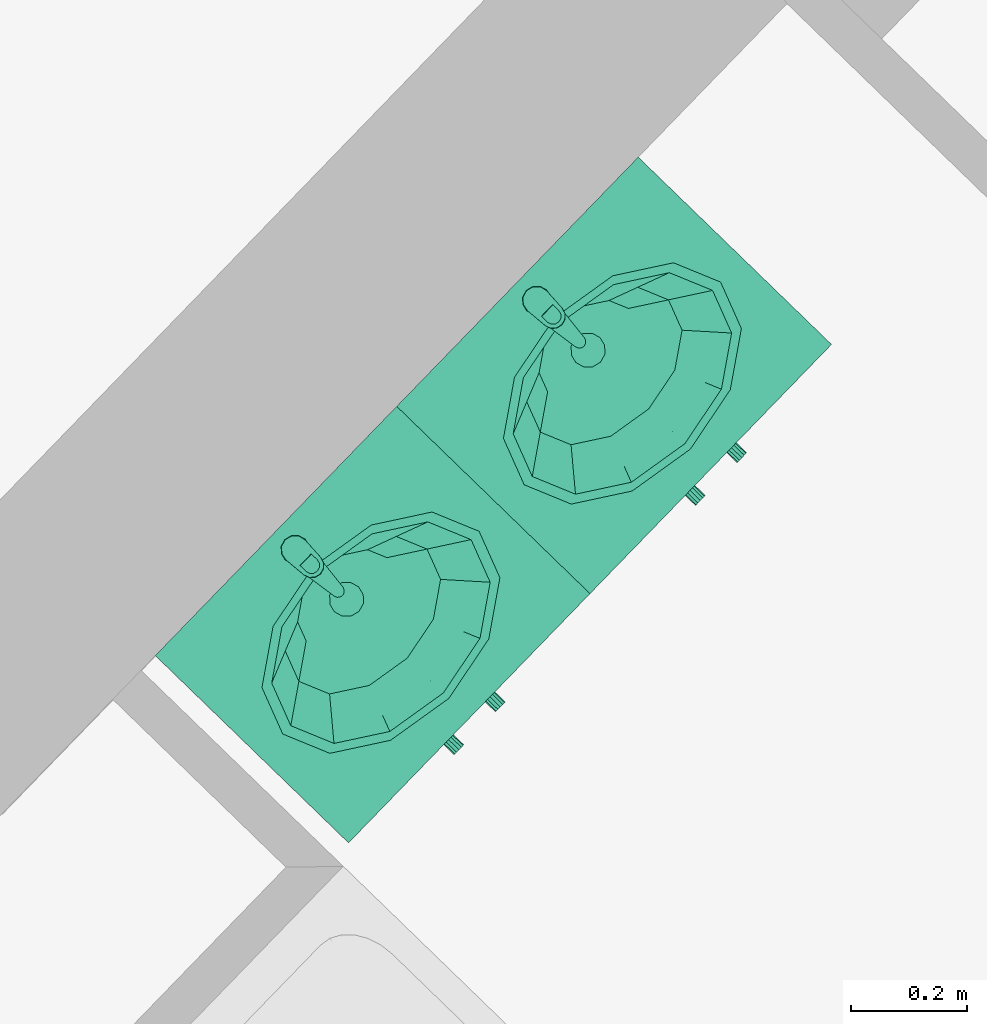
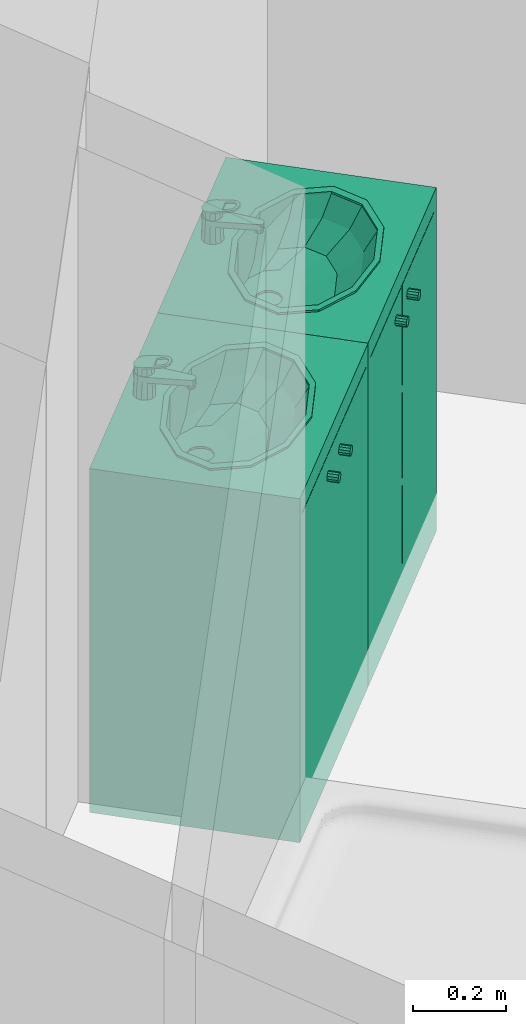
# One storey, part 134 of 195: 2 distribution elements.
"""IFC2X3 building model written with IfcOpenShell, lengths in metres."""

from ifc_helpers import new_model, entity, si_unit, converted_unit, derived_unit, money_unit, direction, frame, origin_with_axes, place, context, subcontext, project, spatial, open_shell, faceted_brep, surface_model, source, transform, mapped, type_object, element, save


model = new_model("IFC2X3")

# Units and contexts
model_context = context("Model", 3, precision=1e-05, world=origin_with_axes(), true_north=direction((0.0, 1.0)))
body_context = subcontext(model_context, "Body", "Model", "MODEL_VIEW")
ifc_project = project(units=[si_unit("LENGTHUNIT", "METRE"), si_unit("AREAUNIT", "SQUARE_METRE"), si_unit("VOLUMEUNIT", "CUBIC_METRE"), converted_unit("PLANEANGLEUNIT", "DEGREE", entity("IfcPlaneAngleMeasure", 0.0174532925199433), si_unit("PLANEANGLEUNIT", "RADIAN"), dimensions=[0, 0, 0, 0, 0, 0, 0]), money_unit("CHF"), converted_unit("TIMEUNIT", "Year", entity("IfcTimeMeasure", 31557600.0), si_unit("TIMEUNIT", "SECOND"), dimensions=[0, 0, 1, 0, 0, 0, 0]), si_unit("MASSUNIT", "GRAM", prefix="KILO"), si_unit("THERMODYNAMICTEMPERATUREUNIT", "DEGREE_CELSIUS"), si_unit("LUMINOUSINTENSITYUNIT", "LUMEN"), si_unit("ENERGYUNIT", "JOULE", prefix="MEGA"), derived_unit("THERMALCONDUCTANCEUNIT", [(si_unit("POWERUNIT", "WATT"), 1), (si_unit("LENGTHUNIT", "METRE"), -1), (si_unit("THERMODYNAMICTEMPERATUREUNIT", "KELVIN"), -1)]), derived_unit("SPECIFICHEATCAPACITYUNIT", [(si_unit("ENERGYUNIT", "JOULE"), 1), (si_unit("MASSUNIT", "GRAM", prefix="KILO"), -1), (si_unit("THERMODYNAMICTEMPERATUREUNIT", "KELVIN"), -1)]), derived_unit("MASSDENSITYUNIT", [(si_unit("MASSUNIT", "GRAM", prefix="KILO"), 1), (si_unit("VOLUMEUNIT", "CUBIC_METRE"), -1)])], contexts=[model_context])

# Site, building, storey
site_placement = place(None, origin_with_axes())
site = spatial("IfcSite", under=ifc_project, at=site_placement, Name="Site", CompositionType="ELEMENT")
building_placement = place(site_placement, origin_with_axes())
building = spatial("IfcBuilding", under=site, at=building_placement, Name="Bâtiment", CompositionType="ELEMENT")
storey_placement = place(building_placement, origin_with_axes())
storey = spatial("IfcBuildingStorey", under=building, at=storey_placement, Name="rdc", CompositionType="ELEMENT", Elevation=0.0)

# Distribution elements
distribution_element_type = type_object("IfcDistributionElementType", Name="Lavabo sur meuble 27")
shared_shape = source(origin_with_axes(), body_context, "Body", "SurfaceModel", [
    faceted_brep([(0.0, 0.0, 0.0), (0.0, 0.0, 0.1), (-0.6, 0.0, 0.1), (-0.6, 0.0, 0.0), (0.0, 0.4653441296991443, 0.0), (0.0, 0.4653441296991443, 0.1), (-0.6, 0.4653441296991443, 0.1), (-0.6, 0.4653441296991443, 0.0)], [[[0, 1, 2, 3]], [[4, 5, 1, 0]], [[1, 5, 6, 2]], [[3, 2, 6, 7]], [[0, 3, 7, 4]], [[7, 6, 5, 4]]]),
    faceted_brep([(0.0, 0.0, 0.1), (0.0, 0.0, 0.12), (-0.02, 0.0, 0.12), (-0.02, 0.0, 0.1), (0.0, 0.4653441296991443, 0.1), (0.0, 0.4653441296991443, 0.12), (-0.02, 0.4653441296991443, 0.12), (-0.58, 0.4653441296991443, 0.12), (-0.6, 0.4653441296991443, 0.12), (-0.6, 0.0, 0.12), (-0.58, 0.0, 0.12), (-0.58, 0.0, 0.1), (-0.6, 0.0, 0.1), (-0.6, 0.4653441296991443, 0.1), (-0.58, 0.4653441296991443, 0.1), (-0.02, 0.4653441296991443, 0.1)], [[[0, 1, 2, 3]], [[4, 5, 1, 0]], [[1, 5, 6, 7, 8, 9, 10, 2]], [[3, 2, 10, 11]], [[0, 3, 11, 12, 13, 14, 15, 4]], [[15, 6, 5, 4]], [[14, 7, 6, 15]], [[13, 8, 7, 14]], [[12, 9, 8, 13]], [[11, 10, 9, 12]]]),
    faceted_brep([(0.0, 0.0, 0.12), (0.0, 0.0, 0.85), (-0.02, 0.0, 0.85), (-0.02, 0.0, 0.12), (0.0, 0.4653441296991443, 0.12), (0.0, 0.4653441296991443, 0.85), (-0.6, 0.4653441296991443, 0.85), (-0.6, 0.0, 0.85), (-0.58, 0.0, 0.85), (-0.58, 0.4453441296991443, 0.85), (-0.02, 0.4453441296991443, 0.85), (-0.02, 0.4453441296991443, 0.12), (-0.58, 0.4453441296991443, 0.12), (-0.58, 0.0, 0.12), (-0.6, 0.0, 0.12), (-0.6, 0.4653441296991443, 0.12)], [[[0, 1, 2, 3]], [[4, 5, 1, 0]], [[1, 5, 6, 7, 8, 9, 10, 2]], [[3, 2, 10, 11]], [[0, 3, 11, 12, 13, 14, 15, 4]], [[15, 6, 5, 4]], [[14, 7, 6, 15]], [[13, 8, 7, 14]], [[12, 9, 8, 13]], [[11, 10, 9, 12]]]),
    faceted_brep([(-0.58, 0.0, 0.3233333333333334), (-0.58, 0.0, 0.3433333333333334), (-0.58, 0.4453441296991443, 0.3433333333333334), (-0.58, 0.4453441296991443, 0.3233333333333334), (-0.02, 0.0, 0.3233333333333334), (-0.02, 0.0, 0.3433333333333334), (-0.02, 0.4453441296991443, 0.3433333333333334), (-0.02, 0.4453441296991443, 0.3233333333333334)], [[[0, 1, 2, 3]], [[4, 5, 1, 0]], [[1, 5, 6, 2]], [[3, 2, 6, 7]], [[0, 3, 7, 4]], [[7, 6, 5, 4]]]),
    faceted_brep([(-0.58, 0.0, 0.5666666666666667), (-0.58, 0.0, 0.5866666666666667), (-0.58, 0.4453441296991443, 0.5866666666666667), (-0.58, 0.4453441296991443, 0.5666666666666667), (-0.02, 0.0, 0.5666666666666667), (-0.02, 0.0, 0.5866666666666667), (-0.02, 0.4453441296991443, 0.5866666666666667), (-0.02, 0.4453441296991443, 0.5666666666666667)], [[[0, 1, 2, 3]], [[4, 5, 1, 0]], [[1, 5, 6, 2]], [[3, 2, 6, 7]], [[0, 3, 7, 4]], [[7, 6, 5, 4]]]),
    faceted_brep([(0.0, 0.4653441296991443, 0.85), (0.0, 0.0, 0.85), (-0.6, 0.0, 0.85), (-0.6, 0.4653441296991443, 0.85), (-0.4124999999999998, 0.08276825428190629, 0.85), (-0.3, 0.06267206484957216, 0.85), (-0.1874999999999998, 0.08276825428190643, 0.85), (-0.1051442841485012, 0.1376720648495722, 0.85), (-0.07499999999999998, 0.2126720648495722, 0.85), (-0.1051442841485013, 0.2876720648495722, 0.85), (-0.1875000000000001, 0.342575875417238, 0.85), (-0.3, 0.3626720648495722, 0.85), (-0.4125, 0.3425758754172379, 0.85), (-0.4948557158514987, 0.2876720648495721, 0.85), (-0.525, 0.2126720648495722, 0.85), (-0.4948557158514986, 0.137672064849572, 0.85), (0.0, 0.4653441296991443, 0.9), (0.0, 0.0, 0.9), (-0.6, 0.0, 0.9), (-0.6, 0.4653441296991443, 0.9), (-0.3, 0.06267206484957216, 0.9), (-0.4124999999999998, 0.08276825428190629, 0.9), (-0.1874999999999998, 0.08276825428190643, 0.9), (-0.1051442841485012, 0.1376720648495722, 0.9), (-0.07499999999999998, 0.2126720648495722, 0.9), (-0.1051442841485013, 0.2876720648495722, 0.9), (-0.1875000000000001, 0.342575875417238, 0.9), (-0.3, 0.3626720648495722, 0.9), (-0.4125, 0.3425758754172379, 0.9), (-0.4948557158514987, 0.2876720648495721, 0.9), (-0.525, 0.2126720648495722, 0.9), (-0.4948557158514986, 0.137672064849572, 0.9)], [[[0, 1, 2, 3], [4, 5, 6, 7, 8, 9, 10, 11, 12, 13, 14, 15]], [[1, 0, 16, 17]], [[2, 1, 17, 18]], [[3, 2, 18, 19]], [[0, 3, 19, 16]], [[20, 5, 4, 21]], [[22, 6, 5, 20]], [[23, 7, 6, 22]], [[24, 8, 7, 23]], [[25, 9, 8, 24]], [[26, 10, 9, 25]], [[27, 11, 10, 26]], [[28, 12, 11, 27]], [[29, 13, 12, 28]], [[30, 14, 13, 29]], [[31, 15, 14, 30]], [[21, 4, 15, 31]], [[18, 17, 16, 19], [28, 27, 26, 25, 24, 23, 22, 20, 21, 31, 30, 29]]]),
    faceted_brep([(-0.544, 0.2126720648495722, 0.905), (-0.511310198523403, 0.2943684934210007, 0.905), (-0.511310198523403, 0.2943684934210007, 0.9), (-0.544, 0.2126720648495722, 0.9), (-0.5113101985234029, 0.1309756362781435, 0.905), (-0.4219999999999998, 0.07116969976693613, 0.905), (-0.3, 0.04927920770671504, 0.905), (-0.1779999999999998, 0.07116969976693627, 0.905), (-0.08868980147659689, 0.1309756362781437, 0.905), (-0.05599999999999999, 0.2126720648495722, 0.905), (-0.088689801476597, 0.2943684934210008, 0.905), (-0.178, 0.3541744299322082, 0.905), (-0.3, 0.3760649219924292, 0.905), (-0.422, 0.3541744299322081, 0.905), (-0.524, 0.2126720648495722, 0.905), (-0.4939896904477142, 0.2876720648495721, 0.905), (-0.412, 0.3425758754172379, 0.905), (-0.3, 0.3626720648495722, 0.905), (-0.1880000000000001, 0.342575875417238, 0.905), (-0.1060103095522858, 0.2876720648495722, 0.905), (-0.07599999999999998, 0.2126720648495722, 0.905), (-0.1060103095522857, 0.1376720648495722, 0.905), (-0.1879999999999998, 0.08276825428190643, 0.905), (-0.3, 0.06267206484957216, 0.905), (-0.4119999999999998, 0.08276825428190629, 0.905), (-0.4939896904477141, 0.137672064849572, 0.905), (-0.422, 0.3541744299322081, 0.9), (-0.3, 0.3760649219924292, 0.9), (-0.178, 0.3541744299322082, 0.9), (-0.088689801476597, 0.2943684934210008, 0.9), (-0.05599999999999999, 0.2126720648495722, 0.9), (-0.08868980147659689, 0.1309756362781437, 0.9), (-0.1779999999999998, 0.07116969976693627, 0.9), (-0.3, 0.04927920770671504, 0.9), (-0.4219999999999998, 0.07116969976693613, 0.9), (-0.5113101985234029, 0.1309756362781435, 0.9), (-0.524, 0.2126720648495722, 0.9), (-0.4939896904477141, 0.137672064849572, 0.9), (-0.4119999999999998, 0.08276825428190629, 0.9), (-0.3, 0.06267206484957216, 0.9), (-0.1879999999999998, 0.08276825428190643, 0.9), (-0.1060103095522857, 0.1376720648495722, 0.9), (-0.07599999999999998, 0.2126720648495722, 0.9), (-0.1060103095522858, 0.2876720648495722, 0.9), (-0.1880000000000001, 0.342575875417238, 0.9), (-0.3, 0.3626720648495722, 0.9), (-0.412, 0.3425758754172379, 0.9), (-0.4939896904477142, 0.2876720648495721, 0.9)], [[[0, 1, 2, 3]], [[0, 4, 5, 6, 7, 8, 9, 10, 11, 12, 13, 1], [14, 15, 16, 17, 18, 19, 20, 21, 22, 23, 24, 25]], [[1, 13, 26, 2]], [[3, 2, 26, 27, 28, 29, 30, 31, 32, 33, 34, 35], [36, 37, 38, 39, 40, 41, 42, 43, 44, 45, 46, 47]], [[4, 0, 3, 35]], [[5, 4, 35, 34]], [[6, 5, 34, 33]], [[7, 6, 33, 32]], [[8, 7, 32, 31]], [[9, 8, 31, 30]], [[10, 9, 30, 29]], [[11, 10, 29, 28]], [[12, 11, 28, 27]], [[13, 12, 27, 26]], [[15, 14, 36, 47]], [[16, 15, 47, 46]], [[17, 16, 46, 45]], [[18, 17, 45, 44]], [[19, 18, 44, 43]], [[20, 19, 43, 42]], [[21, 20, 42, 41]], [[22, 21, 41, 40]], [[23, 22, 40, 39]], [[24, 23, 39, 38]], [[25, 24, 38, 37]], [[14, 25, 37, 36]]]),
    surface_model("IfcShellBasedSurfaceModel", [(-0.3, 0.3626720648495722, 0.9), (-0.412, 0.342575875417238, 0.9), (-0.4008, 0.3445854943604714, 0.848), (-0.3, 0.3626720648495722, 0.848), (-0.4939896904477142, 0.2876720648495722, 0.9), (-0.4745907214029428, 0.2951720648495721, 0.848), (-0.1879999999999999, 0.3425758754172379, 0.9), (-0.1991999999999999, 0.3445854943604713, 0.848), (-0.524, 0.2126720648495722, 0.9), (-0.5016, 0.2276720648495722, 0.848), (-0.1060103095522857, 0.2876720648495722, 0.9), (-0.1254092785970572, 0.2951720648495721, 0.848), (-0.4939896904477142, 0.1376720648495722, 0.9), (-0.4745907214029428, 0.1601720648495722, 0.848), (-0.07599999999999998, 0.2126720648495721, 0.9), (-0.09839999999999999, 0.2276720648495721, 0.848), (-0.412, 0.08276825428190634, 0.9), (-0.4008, 0.1107586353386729, 0.848), (-0.1060103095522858, 0.1376720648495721, 0.9), (-0.1254092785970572, 0.1601720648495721, 0.848), (-0.3, 0.06267206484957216, 0.9), (-0.3, 0.09267206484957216, 0.848), (-0.1879999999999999, 0.08276825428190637, 0.9), (-0.1992, 0.110758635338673, 0.848)], [open_shell([[[0, 1, 2, 3]], [[1, 4, 5, 2]], [[6, 0, 3, 7]], [[4, 8, 9, 5]], [[10, 6, 7, 11]], [[8, 12, 13, 9]], [[14, 10, 11, 15]], [[12, 16, 17, 13]], [[18, 14, 15, 19]], [[16, 20, 21, 17]], [[22, 18, 19, 23]], [[20, 22, 23, 21]]])]),
    surface_model("IfcShellBasedSurfaceModel", [(-0.3, 0.3626720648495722, 0.848), (-0.4008, 0.3445854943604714, 0.848), (-0.379632, 0.3483836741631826, 0.7959999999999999), (-0.3, 0.3626720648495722, 0.7959999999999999), (-0.4745907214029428, 0.2951720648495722, 0.848), (-0.4379266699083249, 0.3093470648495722, 0.7959999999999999), (-0.1991999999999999, 0.3445854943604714, 0.848), (-0.2203679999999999, 0.3483836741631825, 0.7959999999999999), (-0.5016, 0.2276720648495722, 0.848), (-0.459264, 0.2560220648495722, 0.7959999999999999), (-0.1254092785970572, 0.2951720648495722, 0.848), (-0.1620733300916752, 0.3093470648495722, 0.7959999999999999), (-0.4745907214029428, 0.1601720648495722, 0.848), (-0.4379266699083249, 0.2026970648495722, 0.7959999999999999), (-0.09839999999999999, 0.2276720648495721, 0.848), (-0.140736, 0.2560220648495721, 0.7959999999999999), (-0.4008, 0.1107586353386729, 0.848), (-0.379632, 0.1636604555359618, 0.7959999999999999), (-0.1254092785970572, 0.1601720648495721, 0.848), (-0.1620733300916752, 0.2026970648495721, 0.7959999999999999), (-0.3, 0.09267206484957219, 0.848), (-0.3, 0.1493720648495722, 0.7959999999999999), (-0.1992, 0.110758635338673, 0.848), (-0.220368, 0.1636604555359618, 0.7959999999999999)], [open_shell([[[0, 1, 2, 3]], [[1, 4, 5, 2]], [[6, 0, 3, 7]], [[4, 8, 9, 5]], [[10, 6, 7, 11]], [[8, 12, 13, 9]], [[14, 10, 11, 15]], [[12, 16, 17, 13]], [[18, 14, 15, 19]], [[16, 20, 21, 17]], [[22, 18, 19, 23]], [[20, 22, 23, 21]]])]),
    surface_model("IfcShellBasedSurfaceModel", [(-0.3, 0.3626720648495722, 0.7959999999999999), (-0.379632, 0.3483836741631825, 0.7959999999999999), (-0.35016816, 0.3536703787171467, 0.7699999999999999), (-0.3, 0.3626720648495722, 0.7699999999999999), (-0.4379266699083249, 0.3093470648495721, 0.7959999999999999), (-0.3868938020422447, 0.3290773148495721, 0.7699999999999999), (-0.2203679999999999, 0.3483836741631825, 0.7959999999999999), (-0.2498318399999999, 0.3536703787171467, 0.7699999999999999), (-0.459264, 0.2560220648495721, 0.7959999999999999), (-0.40033632, 0.2954825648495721, 0.7699999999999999), (-0.1620733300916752, 0.3093470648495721, 0.7959999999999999), (-0.2131061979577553, 0.3290773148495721, 0.7699999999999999), (-0.4379266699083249, 0.2026970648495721, 0.7959999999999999), (-0.3868938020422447, 0.2618878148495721, 0.7699999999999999), (-0.140736, 0.2560220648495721, 0.7959999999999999), (-0.19966368, 0.2954825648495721, 0.7699999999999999), (-0.379632, 0.1636604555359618, 0.7959999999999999), (-0.35016816, 0.2372947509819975, 0.7699999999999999), (-0.1620733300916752, 0.2026970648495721, 0.7959999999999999), (-0.2131061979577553, 0.2618878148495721, 0.7699999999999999), (-0.3, 0.1493720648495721, 0.7959999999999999), (-0.3, 0.2282930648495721, 0.7699999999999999), (-0.220368, 0.1636604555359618, 0.7959999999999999), (-0.24983184, 0.2372947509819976, 0.7699999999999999)], [open_shell([[[0, 1, 2, 3]], [[1, 4, 5, 2]], [[6, 0, 3, 7]], [[4, 8, 9, 5]], [[10, 6, 7, 11]], [[8, 12, 13, 9]], [[14, 10, 11, 15]], [[12, 16, 17, 13]], [[18, 14, 15, 19]], [[16, 20, 21, 17]], [[22, 18, 19, 23]], [[20, 22, 23, 21]]])]),
    surface_model("IfcShellBasedSurfaceModel", [(-0.3, 0.3626720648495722, 0.7699999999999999), (-0.35016816, 0.3536703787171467, 0.7699999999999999), (-0.315, 0.3214633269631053, 0.7629999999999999), (-0.3259807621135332, 0.3104825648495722, 0.7629999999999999), (-0.3, 0.3254825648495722, 0.7629999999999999), (-0.3868938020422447, 0.3290773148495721, 0.7699999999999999), (-0.2498318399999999, 0.3536703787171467, 0.7699999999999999), (-0.33, 0.2954825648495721, 0.7629999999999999), (-0.285, 0.3214633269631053, 0.7629999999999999), (-0.40033632, 0.2954825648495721, 0.7699999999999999), (-0.2131061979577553, 0.3290773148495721, 0.7699999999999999), (-0.3259807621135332, 0.2804825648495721, 0.7629999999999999), (-0.2740192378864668, 0.3104825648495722, 0.7629999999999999), (-0.3868938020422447, 0.2618878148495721, 0.7699999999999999), (-0.19966368, 0.2954825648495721, 0.7699999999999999), (-0.315, 0.269501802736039, 0.7629999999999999), (-0.27, 0.2954825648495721, 0.7629999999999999), (-0.35016816, 0.2372947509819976, 0.7699999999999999), (-0.2131061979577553, 0.2618878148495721, 0.7699999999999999), (-0.3, 0.2654825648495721, 0.7629999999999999), (-0.2740192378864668, 0.2804825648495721, 0.7629999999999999), (-0.3, 0.2282930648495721, 0.7699999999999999), (-0.24983184, 0.2372947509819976, 0.7699999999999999), (-0.285, 0.269501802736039, 0.7629999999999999)], [open_shell([[[0, 1, 2]], [[1, 3, 2]], [[0, 2, 4]], [[1, 5, 3]], [[6, 0, 4]], [[5, 7, 3]], [[6, 4, 8]], [[5, 9, 7]], [[10, 6, 8]], [[9, 11, 7]], [[10, 8, 12]], [[9, 13, 11]], [[14, 10, 12]], [[13, 15, 11]], [[14, 12, 16]], [[13, 17, 15]], [[18, 14, 16]], [[17, 19, 15]], [[18, 16, 20]], [[17, 21, 19]], [[22, 18, 20]], [[21, 23, 19]], [[22, 20, 23]], [[21, 22, 23]]])]),
    surface_model("IfcShellBasedSurfaceModel", [(-0.33, 0.2954825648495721, 0.763), (-0.3259807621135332, 0.3104825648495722, 0.763), (-0.3259807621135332, 0.3104825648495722, 0.758), (-0.33, 0.2954825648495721, 0.758), (-0.315, 0.3214633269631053, 0.763), (-0.315, 0.3214633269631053, 0.758), (-0.3, 0.3254825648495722, 0.758), (-0.285, 0.3214633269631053, 0.758), (-0.2740192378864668, 0.3104825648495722, 0.758), (-0.27, 0.2954825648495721, 0.758), (-0.2740192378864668, 0.2804825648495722, 0.758), (-0.285, 0.269501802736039, 0.758), (-0.3, 0.2654825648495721, 0.758), (-0.3149999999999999, 0.269501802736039, 0.758), (-0.3259807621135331, 0.2804825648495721, 0.758), (-0.3259807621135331, 0.2804825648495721, 0.763), (-0.3, 0.3254825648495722, 0.763), (-0.285, 0.3214633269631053, 0.763), (-0.2740192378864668, 0.3104825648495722, 0.763), (-0.27, 0.2954825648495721, 0.763), (-0.2740192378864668, 0.2804825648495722, 0.763), (-0.285, 0.269501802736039, 0.763), (-0.3, 0.2654825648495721, 0.763), (-0.3149999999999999, 0.269501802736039, 0.763)], [open_shell([[[0, 1, 2, 3]], [[1, 4, 5, 2]], [[3, 2, 5, 6, 7, 8, 9, 10, 11, 12, 13, 14]], [[15, 0, 3, 14]], [[4, 16, 6, 5]], [[16, 17, 7, 6]], [[17, 18, 8, 7]], [[18, 19, 9, 8]], [[19, 20, 10, 9]], [[20, 21, 11, 10]], [[21, 22, 12, 11]], [[22, 23, 13, 12]], [[23, 15, 14, 13]]])]),
    faceted_brep([(-0.3125, 0.4406587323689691, 0.9), (-0.310587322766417, 0.4373458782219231, 0.976507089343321), (-0.3, 0.4402100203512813, 0.9759615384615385), (-0.3, 0.4440080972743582, 0.9), (-0.3216506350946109, 0.4315080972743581, 0.9), (-0.3182735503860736, 0.4295583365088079, 0.9779904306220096), (-0.321, 0.4190080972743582, 0.98), (-0.3181003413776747, 0.4085578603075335, 0.9819905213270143), (-0.3104141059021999, 0.400970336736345, 0.9834357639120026), (-0.3, 0.3982062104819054, 0.9839622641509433), (-0.2895858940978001, 0.400970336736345, 0.9834357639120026), (-0.2818996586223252, 0.4085578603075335, 0.9819905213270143), (-0.279, 0.4190080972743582, 0.98), (-0.2817264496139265, 0.4295583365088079, 0.9779904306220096), (-0.289412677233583, 0.4373458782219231, 0.976507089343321), (-0.2875, 0.4406587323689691, 0.9), (-0.278349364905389, 0.4315080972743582, 0.9), (-0.275, 0.4190080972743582, 0.9), (-0.278349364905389, 0.4065080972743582, 0.9), (-0.2875, 0.3973574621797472, 0.9), (-0.3, 0.3940080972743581, 0.9), (-0.3125, 0.3973574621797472, 0.9), (-0.3216506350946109, 0.4065080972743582, 0.9), (-0.325, 0.4190080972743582, 0.9)], [[[0, 1, 2, 3]], [[4, 5, 1, 0]], [[1, 5, 6, 7, 8, 9, 10, 11, 12, 13, 14, 2]], [[3, 2, 14, 15]], [[0, 3, 15, 16, 17, 18, 19, 20, 21, 22, 23, 4]], [[23, 6, 5, 4]], [[22, 7, 6, 23]], [[21, 8, 7, 22]], [[20, 9, 8, 21]], [[19, 10, 9, 20]], [[18, 11, 10, 19]], [[17, 12, 11, 18]], [[16, 13, 12, 17]], [[15, 14, 13, 16]]]),
    faceted_brep([(-0.309, 0.3160080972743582, 0.935), (-0.309, 0.3160080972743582, 0.9450000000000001), (-0.3077942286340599, 0.3205080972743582, 0.9450000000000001), (-0.3077942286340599, 0.3205080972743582, 0.935), (-0.3077942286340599, 0.3115080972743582, 0.935), (-0.3077942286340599, 0.3115080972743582, 0.9450000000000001), (-0.3045, 0.3082138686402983, 0.9450000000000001), (-0.3, 0.3070080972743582, 0.9450000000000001), (-0.2955, 0.3082138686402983, 0.9450000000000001), (-0.2922057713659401, 0.3115080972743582, 0.9450000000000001), (-0.291, 0.3160080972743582, 0.9450000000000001), (-0.2922057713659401, 0.3205080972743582, 0.9450000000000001), (-0.2955, 0.3238023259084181, 0.9450000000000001), (-0.3, 0.3250080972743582, 0.9450000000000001), (-0.3045, 0.3238023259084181, 0.9450000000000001), (-0.3045, 0.3238023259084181, 0.935), (-0.3, 0.3250080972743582, 0.935), (-0.2955, 0.3238023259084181, 0.935), (-0.2922057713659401, 0.3205080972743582, 0.935), (-0.291, 0.3160080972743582, 0.935), (-0.2922057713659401, 0.3115080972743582, 0.935), (-0.2955, 0.3082138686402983, 0.935), (-0.3, 0.3070080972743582, 0.935), (-0.3045, 0.3082138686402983, 0.935)], [[[0, 1, 2, 3]], [[4, 5, 1, 0]], [[1, 5, 6, 7, 8, 9, 10, 11, 12, 13, 14, 2]], [[3, 2, 14, 15]], [[0, 3, 15, 16, 17, 18, 19, 20, 21, 22, 23, 4]], [[23, 6, 5, 4]], [[22, 7, 6, 23]], [[21, 8, 7, 22]], [[20, 9, 8, 21]], [[19, 10, 9, 20]], [[18, 11, 10, 19]], [[17, 12, 11, 18]], [[16, 13, 12, 17]], [[15, 14, 13, 16]]]),
    faceted_brep([(-0.2871282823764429, 0.439264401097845, 0.9600000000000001), (-0.300000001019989, 0.44300807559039, 0.9600000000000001), (-0.3128717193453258, 0.4392644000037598, 0.9600000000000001), (-0.3217278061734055, 0.4292013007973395, 0.9600000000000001), (-0.3238053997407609, 0.4159581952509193, 0.9600000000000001), (-0.310912, 0.3146197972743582, 0.9600000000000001), (-0.309028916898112, 0.3097249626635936, 0.9600000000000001), (-0.3050933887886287, 0.3062584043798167, 0.9600000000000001), (-0.300000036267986, 0.305008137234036, 0.9600000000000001), (-0.2949066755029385, 0.3062583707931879, 0.9600000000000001), (-0.2909711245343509, 0.3097249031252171, 0.9600000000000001), (-0.2890880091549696, 0.3146197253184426, 0.9600000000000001), (-0.2761946, 0.4159581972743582, 0.9600000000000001), (-0.2782721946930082, 0.4292013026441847, 0.9600000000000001), (-0.311, 0.4380606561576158, 0.9600000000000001), (-0.3, 0.4410080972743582, 0.9600000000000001), (-0.289, 0.4380606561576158, 0.9600000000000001), (-0.2809474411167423, 0.4300080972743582, 0.9600000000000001), (-0.278, 0.4190080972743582, 0.9600000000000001), (-0.2809474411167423, 0.4080080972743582, 0.9600000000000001), (-0.289, 0.3999555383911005, 0.9600000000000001), (-0.3, 0.3970080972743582, 0.9600000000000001), (-0.3109999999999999, 0.3999555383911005, 0.9600000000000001), (-0.3190525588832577, 0.4080080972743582, 0.9600000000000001), (-0.322, 0.4190080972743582, 0.9600000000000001), (-0.3190525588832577, 0.4300080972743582, 0.9600000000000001), (-0.2871282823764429, 0.439264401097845, 0.9450000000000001), (-0.300000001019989, 0.44300807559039, 0.9450000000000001), (-0.3128717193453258, 0.4392644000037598, 0.9450000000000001), (-0.3217278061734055, 0.4292013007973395, 0.9450000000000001), (-0.3238053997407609, 0.4159581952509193, 0.9450000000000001), (-0.310912, 0.3146197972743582, 0.9450000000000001), (-0.309028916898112, 0.3097249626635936, 0.9450000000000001), (-0.3050933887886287, 0.3062584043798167, 0.9450000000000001), (-0.300000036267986, 0.305008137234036, 0.9450000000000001), (-0.2949066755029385, 0.3062583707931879, 0.9450000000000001), (-0.2909711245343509, 0.3097249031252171, 0.9450000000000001), (-0.2890880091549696, 0.3146197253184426, 0.9450000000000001), (-0.2761946, 0.4159581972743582, 0.9450000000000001), (-0.2782721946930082, 0.4292013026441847, 0.9450000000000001), (-0.3, 0.4417580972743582, 0.9450000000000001), (-0.311375, 0.4387101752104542, 0.9450000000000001), (-0.288625, 0.4387101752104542, 0.9450000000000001), (-0.280297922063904, 0.4303830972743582, 0.9450000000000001), (-0.2772499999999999, 0.4190080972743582, 0.9450000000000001), (-0.280297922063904, 0.4076330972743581, 0.9450000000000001), (-0.288625, 0.3993060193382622, 0.9450000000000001), (-0.3, 0.3962580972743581, 0.9450000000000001), (-0.311375, 0.3993060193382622, 0.9450000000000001), (-0.319702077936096, 0.4076330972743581, 0.9450000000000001), (-0.32275, 0.4190080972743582, 0.9450000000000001), (-0.319702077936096, 0.4303830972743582, 0.9450000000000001)], [[[0, 1, 2, 3, 4, 5, 6, 7, 8, 9, 10, 11, 12, 13], [14, 15, 16, 17, 18, 19, 20, 21, 22, 23, 24, 25]], [[26, 27, 1, 0]], [[27, 28, 2, 1]], [[28, 29, 3, 2]], [[29, 30, 4, 3]], [[30, 31, 5, 4]], [[31, 32, 6, 5]], [[32, 33, 7, 6]], [[33, 34, 8, 7]], [[34, 35, 9, 8]], [[35, 36, 10, 9]], [[36, 37, 11, 10]], [[37, 38, 12, 11]], [[38, 39, 13, 12]], [[39, 26, 0, 13]], [[40, 15, 14, 41]], [[42, 16, 15, 40]], [[16, 42, 43, 17]], [[17, 43, 44, 18]], [[18, 44, 45, 19]], [[19, 45, 46, 20]], [[20, 46, 47, 21]], [[48, 22, 21, 47]], [[49, 23, 22, 48]], [[50, 24, 23, 49]], [[51, 25, 24, 50]], [[41, 14, 25, 51]], [[34, 33, 32, 31, 30, 29, 28, 27, 26, 39, 38, 37, 36, 35], [48, 47, 46, 45, 44, 43, 42, 40, 41, 51, 50, 49]]]),
    faceted_brep([(-0.323893, 0.4173155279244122, 0.9803223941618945), (-0.323893, 0.4180639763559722, 0.9842517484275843), (-0.3212964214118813, 0.4305312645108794, 0.9818770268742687), (-0.3212964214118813, 0.4297828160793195, 0.9779476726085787), (-0.3209459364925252, 0.377171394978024, 0.9879688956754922), (-0.3209459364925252, 0.377919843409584, 0.9918982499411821), (-0.317663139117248, 0.3682421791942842, 0.9937416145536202), (-0.3100614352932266, 0.3612927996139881, 0.995065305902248), (-0.2999995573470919, 0.3587709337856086, 0.9955456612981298), (-0.289937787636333, 0.3612932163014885, 0.9950652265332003), (-0.2823363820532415, 0.3682429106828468, 0.9937414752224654), (-0.279054, 0.3779207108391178, 0.991898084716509), (-0.2761069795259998, 0.4180642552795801, 0.9842516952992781), (-0.2787037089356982, 0.4305315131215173, 0.9818769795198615), (-0.2875283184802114, 0.4398477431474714, 0.9801024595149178), (-0.3000001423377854, 0.4432885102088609, 0.9794470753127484), (-0.3124719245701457, 0.4398475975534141, 0.9801024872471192), (-0.314, 0.3942157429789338, 0.9887942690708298), (-0.286, 0.3942157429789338, 0.9887942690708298), (-0.286, 0.3794001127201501, 0.9916162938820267), (-0.2878756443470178, 0.3725237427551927, 0.9929260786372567), (-0.293, 0.3674898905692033, 0.9938849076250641), (-0.3, 0.3656473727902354, 0.9942358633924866), (-0.307, 0.3674898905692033, 0.9938849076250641), (-0.3121243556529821, 0.3725237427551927, 0.9929260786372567), (-0.314, 0.3794001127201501, 0.9916162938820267), (-0.3124719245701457, 0.4390991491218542, 0.9761731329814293), (-0.3000001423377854, 0.4425400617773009, 0.9755177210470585), (-0.2875283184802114, 0.4390992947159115, 0.976173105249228), (-0.2787037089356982, 0.4297830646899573, 0.9779476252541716), (-0.2761069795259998, 0.4173158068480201, 0.9803223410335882), (-0.279054, 0.3771722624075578, 0.9879687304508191), (-0.2823363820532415, 0.3674944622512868, 0.9898121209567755), (-0.289937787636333, 0.3605447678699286, 0.9911358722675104), (-0.2999995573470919, 0.3580224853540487, 0.9916163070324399), (-0.3100614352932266, 0.3605443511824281, 0.9911359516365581), (-0.317663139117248, 0.3674937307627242, 0.9898122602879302), (-0.314, 0.3934672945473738, 0.9848649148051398), (-0.314, 0.37865166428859, 0.9876869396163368), (-0.3121243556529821, 0.3717752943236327, 0.9889967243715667), (-0.307, 0.3667414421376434, 0.9899555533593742), (-0.3, 0.3648989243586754, 0.9903065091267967), (-0.293, 0.3667414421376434, 0.9899555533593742), (-0.2878756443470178, 0.3717752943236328, 0.9889967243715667), (-0.286, 0.37865166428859, 0.9876869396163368), (-0.286, 0.3934672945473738, 0.9848649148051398)], [[[0, 1, 2, 3]], [[4, 5, 1, 0]], [[1, 5, 6, 7, 8, 9, 10, 11, 12, 13, 14, 15, 16, 2], [17, 18, 19, 20, 21, 22, 23, 24, 25]], [[3, 2, 16, 26]], [[0, 3, 26, 27, 28, 29, 30, 31, 32, 33, 34, 35, 36, 4], [37, 38, 39, 40, 41, 42, 43, 44, 45]], [[36, 6, 5, 4]], [[35, 7, 6, 36]], [[34, 8, 7, 35]], [[33, 9, 8, 34]], [[32, 10, 9, 33]], [[31, 11, 10, 32]], [[30, 12, 11, 31]], [[29, 13, 12, 30]], [[28, 14, 13, 29]], [[27, 15, 14, 28]], [[26, 16, 15, 27]], [[45, 18, 17, 37]], [[44, 19, 18, 45]], [[43, 20, 19, 44]], [[42, 21, 20, 43]], [[41, 22, 21, 42]], [[40, 23, 22, 41]], [[39, 24, 23, 40]], [[38, 25, 24, 39]], [[37, 17, 25, 38]]]),
    surface_model("IfcShellBasedSurfaceModel", [(-0.001500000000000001, 0.0, 0.1015), (-0.2985, 0.0, 0.1015), (-0.2985, 0.0, 0.8485), (-0.001500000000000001, 0.0, 0.8485)], [open_shell([[[0, 1, 2, 3]]])]),
    faceted_brep([(-0.2588923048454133, 0.0, 0.7855), (-0.2605, 0.0, 0.7915), (-0.2588923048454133, 0.0, 0.7975), (-0.2545, 0.0, 0.8018923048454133), (-0.2485, 0.0, 0.8035), (-0.2425, 0.0, 0.8018923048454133), (-0.2381076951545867, 0.0, 0.7975), (-0.2365, 0.0, 0.7915), (-0.2381076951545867, 0.0, 0.7855), (-0.2425, 0.0, 0.7811076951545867), (-0.2485, 0.0, 0.7795), (-0.2545, 0.0, 0.7811076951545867), (-0.2588923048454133, -0.025, 0.7855), (-0.2605, -0.025, 0.7915), (-0.2588923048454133, -0.025, 0.7975), (-0.2545, -0.025, 0.8018923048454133), (-0.2485, -0.025, 0.8035), (-0.2425, -0.025, 0.8018923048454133), (-0.2381076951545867, -0.025, 0.7975), (-0.2365, -0.025, 0.7915), (-0.2381076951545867, -0.025, 0.7855), (-0.2425, -0.025, 0.7811076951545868), (-0.2485, -0.025, 0.7795), (-0.2545, -0.025, 0.7811076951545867)], [[[0, 1, 2, 3, 4, 5, 6, 7, 8, 9, 10, 11]], [[0, 12, 13, 1]], [[1, 13, 14, 2]], [[2, 14, 15, 3]], [[3, 15, 16, 4]], [[4, 16, 17, 5]], [[5, 17, 18, 6]], [[6, 18, 19, 7]], [[7, 19, 20, 8]], [[8, 20, 21, 9]], [[9, 21, 22, 10]], [[10, 22, 23, 11]], [[11, 23, 12, 0]], [[12, 23, 22, 21, 20, 19, 18, 17, 16, 15, 14, 13]]]),
    surface_model("IfcShellBasedSurfaceModel", [(-0.5985, 0.0, 0.1015), (-0.5985, 0.0, 0.8485), (-0.3015000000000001, 0.0, 0.8485), (-0.3015000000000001, 0.0, 0.1015)], [open_shell([[[0, 1, 2, 3]]])]),
    faceted_brep([(-0.3411076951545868, 0.0, 0.7855), (-0.3455, 0.0, 0.7811076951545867), (-0.3515, 0.0, 0.7795), (-0.3575, 0.0, 0.7811076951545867), (-0.3618923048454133, 0.0, 0.7855), (-0.3635, 0.0, 0.7915), (-0.3618923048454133, 0.0, 0.7975), (-0.3575, 0.0, 0.8018923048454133), (-0.3515, 0.0, 0.8035), (-0.3455, 0.0, 0.8018923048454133), (-0.3411076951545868, 0.0, 0.7975), (-0.3395, 0.0, 0.7915), (-0.3411076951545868, -0.025, 0.7855), (-0.3455, -0.025, 0.7811076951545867), (-0.3515, -0.025, 0.7795), (-0.3575, -0.025, 0.7811076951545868), (-0.3618923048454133, -0.025, 0.7855), (-0.3635, -0.025, 0.7915), (-0.3618923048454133, -0.025, 0.7975), (-0.3575, -0.025, 0.8018923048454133), (-0.3515, -0.025, 0.8035), (-0.3455, -0.025, 0.8018923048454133), (-0.3411076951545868, -0.025, 0.7975), (-0.3395, -0.025, 0.7915)], [[[0, 1, 2, 3, 4, 5, 6, 7, 8, 9, 10, 11]], [[1, 0, 12, 13]], [[2, 1, 13, 14]], [[3, 2, 14, 15]], [[4, 3, 15, 16]], [[5, 4, 16, 17]], [[6, 5, 17, 18]], [[7, 6, 18, 19]], [[8, 7, 19, 20]], [[9, 8, 20, 21]], [[10, 9, 21, 22]], [[11, 10, 22, 23]], [[0, 11, 23, 12]], [[12, 23, 22, 21, 20, 19, 18, 17, 16, 15, 14, 13]]]),
])
for number, where, z_axis, x_axis, name in (
    (1, (9528.966447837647, -1065.665643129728, 57.59999999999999), (0.0, 0.0, 1.0), (0.6958610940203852, 0.7181763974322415, 0.0), "Obj.-004"),
    (2, (9528.548931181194, -1066.096548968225, 57.59999999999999), (0.0, 0.0, 1.0), (0.6958610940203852, 0.7181763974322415, 0.0), "Obj.-004"),
):
    element("IfcDistributionElement", number, at=place(storey_placement, frame(where, z_axis=z_axis, x_axis=x_axis)), inside=storey, type_object=distribution_element_type, Name=name, context=body_context, shape_type="MappedRepresentation", body=[
        mapped(shared_shape, transform((0.0, 0.0, 0.0))),
    ])

save(model, "model.ifc")
